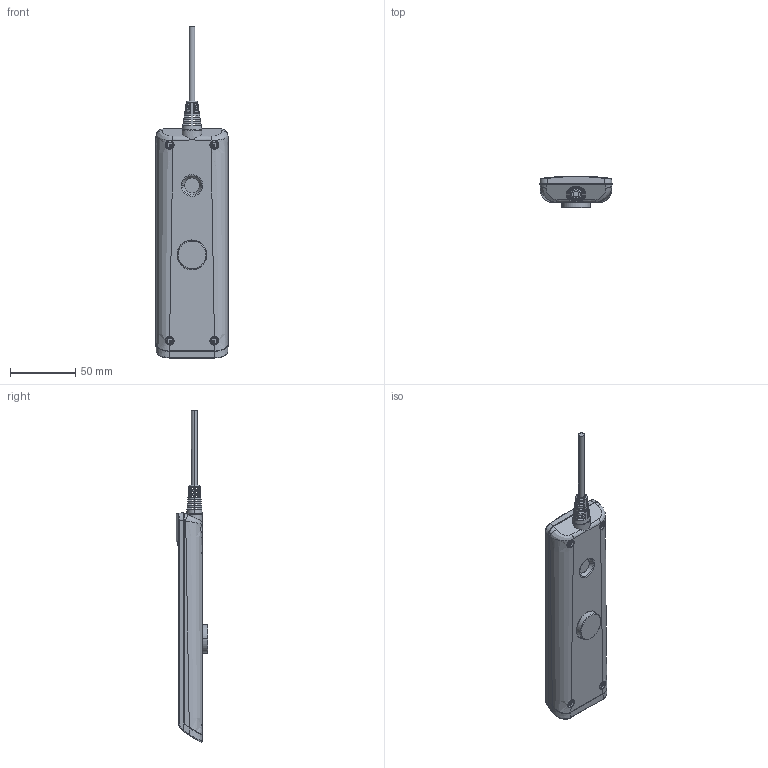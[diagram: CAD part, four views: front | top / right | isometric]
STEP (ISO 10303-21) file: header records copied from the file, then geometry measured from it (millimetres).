
FILE_DESCRIPTION (( 'STEP AP203' ), '1' );
FILE_NAME ('hs16-230920_asm.STEP', '2025-05-08T05:05:42', ( '' ), ( '' ), 'SwSTEP 2.0', 'SolidWorks 2023', '' );
FILE_SCHEMA (( 'CONFIG_CONTROL_DESIGN' ));
Length unit declared in the file: millimetre
Products named in the file (1): hs16-230920_asm
Bounding box: 55 x 24.11 x 253.49 mm (x, y, z)
Surface area: 36424.9 mm2 (no closed solid volume)
Topology: 0 solids, 25 shells, 788 faces, 2363 edges, 1579 vertices
Faces by surface type: plane 193, bspline 186, cylinder 172, torus 125, cone 64, sphere 48
Entity records: 51596 total; most frequent: CARTESIAN_POINT 33104, ORIENTED_EDGE 3868, DIRECTION 3330, EDGE_CURVE 2363, VERTEX_POINT 1579, AXIS2_PLACEMENT_3D 1337, EDGE_LOOP 862, FACE_OUTER_BOUND 788
